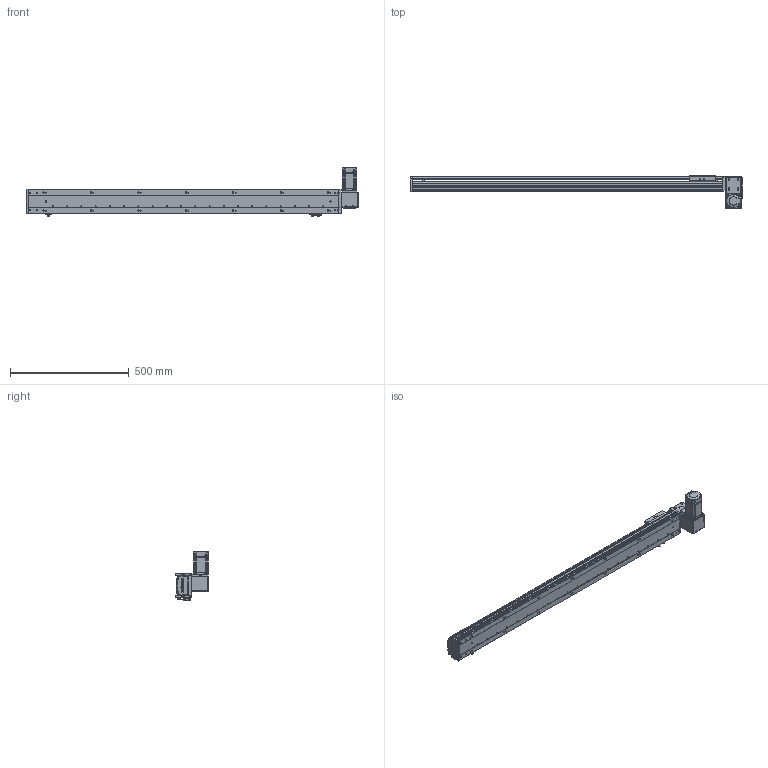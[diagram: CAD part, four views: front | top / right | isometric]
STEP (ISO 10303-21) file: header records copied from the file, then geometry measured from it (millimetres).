
FILE_DESCRIPTION (( 'STEP AP203' ), '1' );
FILE_NAME ('RY100-T-300-DR.SLDASM_1100.step', '2024-04-25T03:23:05', ( '盈信电脑' ), ( '东莞市道滘镇水果街19号' ), 'SwSTEP 2.0', 'SolidWorks 2016', '' );
FILE_SCHEMA (( 'CONFIG_CONTROL_DESIGN' ));
Length unit declared in the file: millimetre
Products named in the file (16): RY80-T肮祭謫狟殏俋欶; 1; RY100-T左右折电机安装板; RY100綴裔啣; RY100-T肮祭謫臏賑輸; 滅袉蝶18-10; RY100俋离覜茼え; RY100-T-300-RK倰第奻裔_1100; 覜茼ん672; 侂狟200W萇儂; RY100-T-300-DR.SLDASM_1100; RY100-T翋肮祭謫裔啣2; RY100-T粣創揤踡裔; RY100-T翋肮祭謫裔啣; RY100-T肮祭謫翋盓傅釱; RY100-T-300-RK倰第菁釱_1100
Assembly tree (19 placements, depth 3):
  RY100-T-300-DR.SLDASM_1100
    RY100-T-300-RK倰第菁釱_1100
    RY100-T-300-RK倰第奻裔_1100
    RY100-T肮祭謫臏賑輸
    RY100綴裔啣
    覜茼ん672  x3
    RY100俋离覜茼え
    RY100-T肮祭謫翋盓傅釱
    RY100-T左右折电机安装板
    侂狟200W萇儂
      1
    RY100-T粣創揤踡裔
    滅袉蝶18-10  x2
    RY100-T翋肮祭謫裔啣2  x2
    RY100-T翋肮祭謫裔啣
    RY80-T肮祭謫狟殏俋欶
Bounding box: 1400 x 135.5 x 209.7 mm (x, y, z)
Volume: 2802890.8 mm3; surface area: 1164027.1 mm2
Topology: 18 solids, 18 shells, 2221 faces, 6169 edges, 4007 vertices
Faces by surface type: plane 1213, cylinder 799, cone 131, bspline 78
Entity records: 70998 total; most frequent: CARTESIAN_POINT 17026, ORIENTED_EDGE 11074, DIRECTION 10561, EDGE_CURVE 5537, VERTEX_POINT 3643, LINE 3591, VECTOR 3591, AXIS2_PLACEMENT_3D 3485
